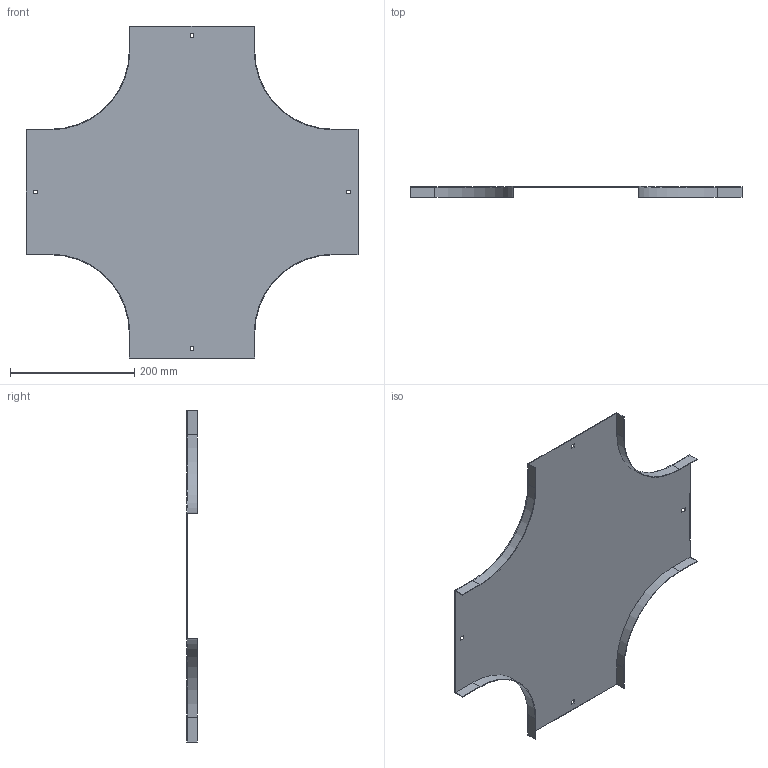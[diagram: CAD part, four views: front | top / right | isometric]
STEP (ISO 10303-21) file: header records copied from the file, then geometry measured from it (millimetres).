
FILE_DESCRIPTION (( 'STEP AP214' ), '1' );
FILE_NAME ('OC_200.step', '2025-07-16T09:10:41', ( '' ), ( '' ), 'SwSTEP 2.0', 'SolidWorks 2023', '' );
FILE_SCHEMA (( 'AUTOMOTIVE_DESIGN' ));
Length unit declared in the file: millimetre
Products named in the file (1): OC_200
Bounding box: 534 x 17 x 534 mm (x, y, z)
Volume: 206229.2 mm3; surface area: 414610.2 mm2
Topology: 1 solids, 1 shells, 50 faces, 144 edges, 96 vertices
Faces by surface type: plane 42, cylinder 8
Entity records: 1663 total; most frequent: CARTESIAN_POINT 291, ORIENTED_EDGE 288, DIRECTION 262, EDGE_CURVE 144, LINE 128, VECTOR 128, VERTEX_POINT 96, AXIS2_PLACEMENT_3D 67
